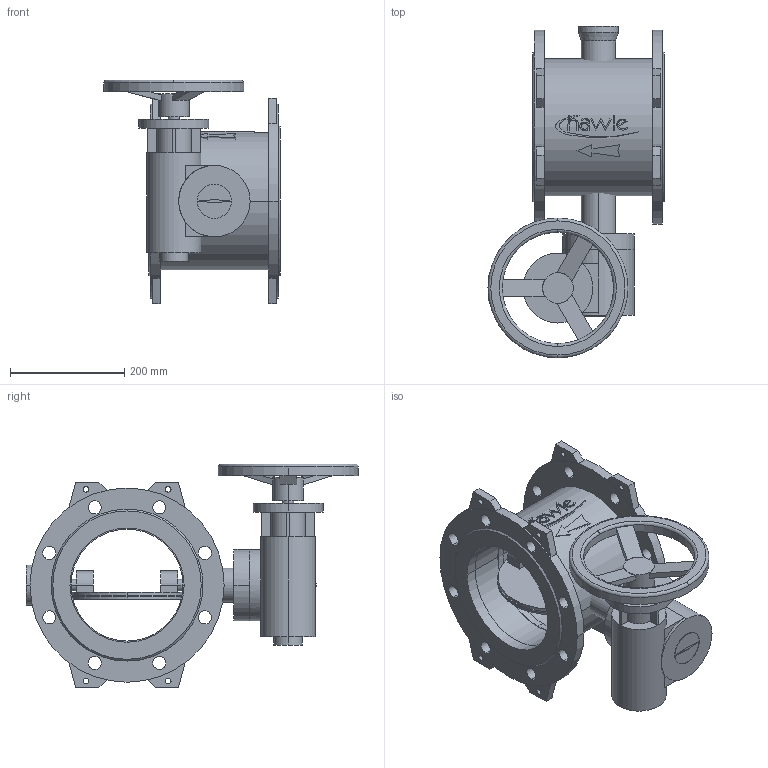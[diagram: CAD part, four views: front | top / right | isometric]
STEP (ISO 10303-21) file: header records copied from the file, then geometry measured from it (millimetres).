
FILE_DESCRIPTION(('STEP AP214'),'1');
FILE_NAME('S:/EK/USER/CAT6/3DHomepage_27-04-2012/neu_08-01-2013/9881K/9881K_PN10_DN200_7800.STP','2013-02-26T15:31:03',(' '),(' '),'Spatial InterOp 3D',' ',' ');
FILE_SCHEMA(('automotive_design'));
Length unit declared in the file: millimetre
Products named in the file (45): 3D-Objekt
Bounding box: 308.5 x 581.5 x 392 mm (x, y, z)
Volume: 9461819 mm3; surface area: 1137040.9 mm2
Topology: 45 solids, 45 shells, 374 faces, 841 edges, 560 vertices
Faces by surface type: plane 210, cylinder 154, cone 6, torus 4
Entity records: 14776 total; most frequent: DIRECTION 2033, CARTESIAN_POINT 1894, ORIENTED_EDGE 1682, EDGE_CURVE 841, AXIS2_PLACEMENT_3D 775, VERTEX_POINT 560, LINE 483, VECTOR 483
